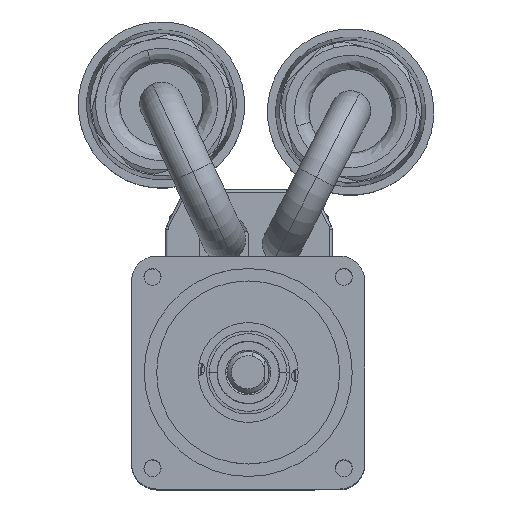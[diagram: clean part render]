
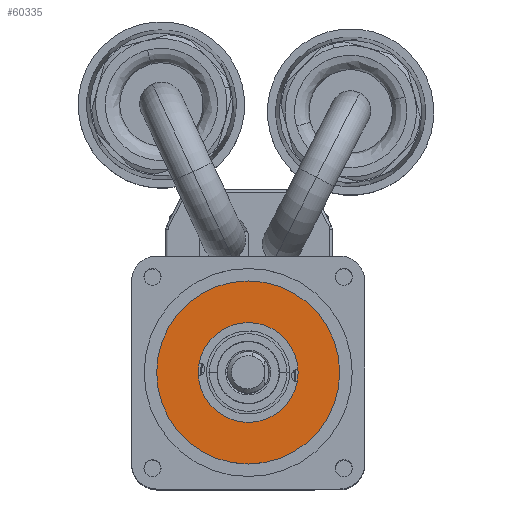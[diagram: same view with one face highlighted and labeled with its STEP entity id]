
A CAD part, top view. The second image highlights one B-rep face of the part: STEP entity #60335.
In plain terms, the highlighted planar face has unit normal (0, 0, 1).
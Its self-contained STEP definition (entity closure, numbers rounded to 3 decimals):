
#96 = FACE_BOUND ( 'NONE', #68791, .T. ) ;
#1377 = AXIS2_PLACEMENT_3D ( 'NONE', #67629, #61900, #80028 ) ;
#4699 = CARTESIAN_POINT ( 'NONE',  ( 42.253, 6.973, 76.325 ) ) ;
#8369 = CARTESIAN_POINT ( 'NONE',  ( 36.253, 6.973, 76.325 ) ) ;
#8833 = EDGE_LOOP ( 'NONE', ( #9323, #32124 ) ) ;
#9103 = CARTESIAN_POINT ( 'NONE',  ( 25.253, 6.973, 76.325 ) ) ;
#9323 = ORIENTED_EDGE ( 'NONE', *, *, #38892, .F. ) ;
#13249 = ORIENTED_EDGE ( 'NONE', *, *, #66322, .T. ) ;
#14560 = DIRECTION ( 'NONE',  ( 0., 0., -1. ) ) ;
#15871 = DIRECTION ( 'NONE',  ( 0., 0., -1. ) ) ;
#18417 = VERTEX_POINT ( 'NONE', #54216 ) ;
#20532 = CIRCLE ( 'NONE', #57499, 11. ) ;
#22461 = DIRECTION ( 'NONE',  ( 1., 0., 0. ) ) ;
#25311 = DIRECTION ( 'NONE',  ( 1., 0., 0. ) ) ;
#31899 = DIRECTION ( 'NONE',  ( 0., 0., 1. ) ) ;
#32124 = ORIENTED_EDGE ( 'NONE', *, *, #55852, .F. ) ;
#33318 = VERTEX_POINT ( 'NONE', #4699 ) ;
#36476 = EDGE_CURVE ( 'NONE', #18417, #33318, #61218, .T. ) ;
#38892 = EDGE_CURVE ( 'NONE', #44738, #67200, #20532, .T. ) ;
#38925 = DIRECTION ( 'NONE',  ( 1., 0., 0. ) ) ;
#42879 = AXIS2_PLACEMENT_3D ( 'NONE', #63710, #14560, #38925 ) ;
#44738 = VERTEX_POINT ( 'NONE', #9103 ) ;
#45964 = PLANE ( 'NONE',  #56140 ) ;
#53543 = CARTESIAN_POINT ( 'NONE',  ( 47.253, 6.973, 76.325 ) ) ;
#54216 = CARTESIAN_POINT ( 'NONE',  ( 30.253, 6.973, 76.325 ) ) ;
#55149 = CARTESIAN_POINT ( 'NONE',  ( 36.253, 6.973, 76.325 ) ) ;
#55852 = EDGE_CURVE ( 'NONE', #67200, #44738, #56741, .T. ) ;
#56140 = AXIS2_PLACEMENT_3D ( 'NONE', #8369, #31899, #25311 ) ;
#56741 = CIRCLE ( 'NONE', #1377, 11. ) ;
#57499 = AXIS2_PLACEMENT_3D ( 'NONE', #55149, #80699, #62160 ) ;
#60335 = ADVANCED_FACE ( 'NONE', ( #75644, #96 ), #45964, .T. ) ;
#61103 = ORIENTED_EDGE ( 'NONE', *, *, #36476, .T. ) ;
#61218 = CIRCLE ( 'NONE', #79630, 6. ) ;
#61900 = DIRECTION ( 'NONE',  ( 0., 0., -1. ) ) ;
#62160 = DIRECTION ( 'NONE',  ( -1., 0., 0. ) ) ;
#63710 = CARTESIAN_POINT ( 'NONE',  ( 36.253, 6.973, 76.325 ) ) ;
#66322 = EDGE_CURVE ( 'NONE', #33318, #18417, #71799, .T. ) ;
#67200 = VERTEX_POINT ( 'NONE', #53543 ) ;
#67629 = CARTESIAN_POINT ( 'NONE',  ( 36.253, 6.973, 76.325 ) ) ;
#68791 = EDGE_LOOP ( 'NONE', ( #13249, #61103 ) ) ;
#70362 = CARTESIAN_POINT ( 'NONE',  ( 36.253, 6.973, 76.325 ) ) ;
#71799 = CIRCLE ( 'NONE', #42879, 6. ) ;
#75644 = FACE_OUTER_BOUND ( 'NONE', #8833, .T. ) ;
#79630 = AXIS2_PLACEMENT_3D ( 'NONE', #70362, #15871, #22461 ) ;
#80028 = DIRECTION ( 'NONE',  ( -1., 0., 0. ) ) ;
#80699 = DIRECTION ( 'NONE',  ( 0., 0., -1. ) ) ;
